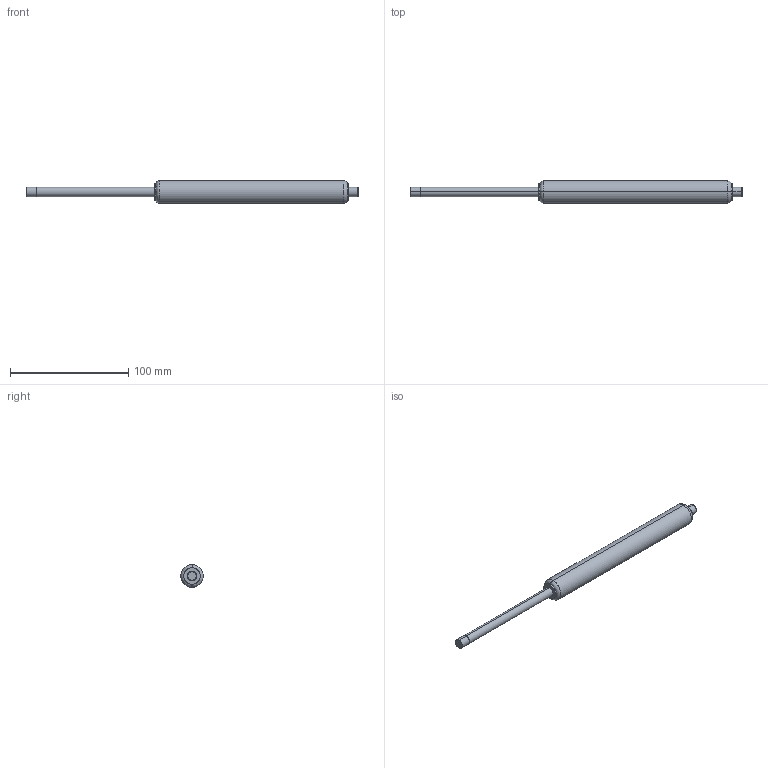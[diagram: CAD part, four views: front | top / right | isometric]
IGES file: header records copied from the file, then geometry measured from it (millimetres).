
Start section: SolidWorks IGES file using analytic representation for surfaces
Bounding box: 281 x 19 x 19 mm (x, y, z)
Surface area: 13101.6 mm2 (no closed solid volume)
Topology: 0 solids, 0 shells, 25 faces, 336 edges, 336 vertices
Faces by surface type: revolution 16, bspline 9
